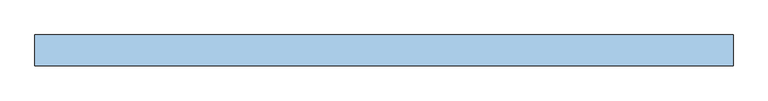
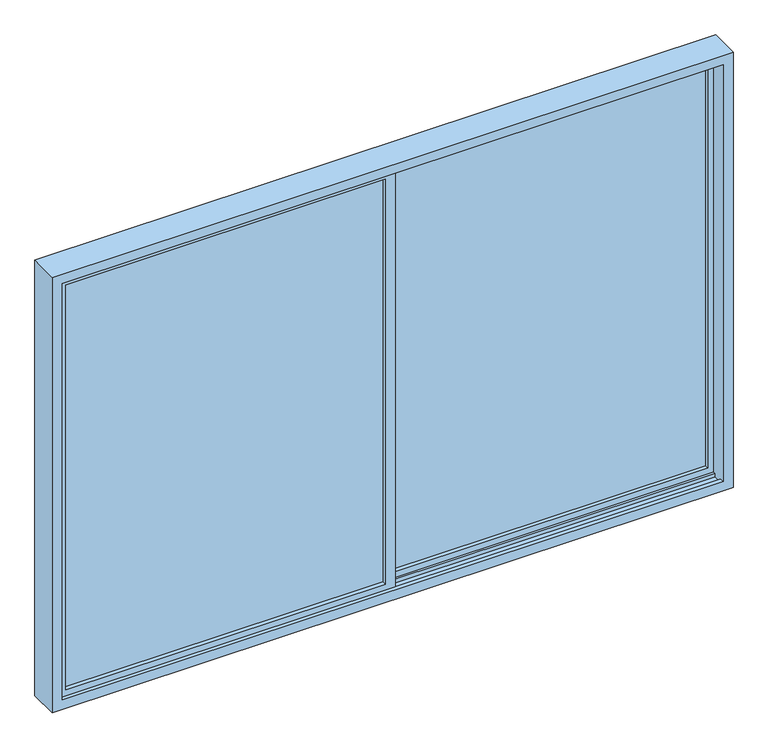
"""IFC4 building model written with IfcOpenShell, lengths in millimetres: window geometry, 두짝미서기창 : 두짝미서기창 2."""

from ifc_helpers import new_model, si_unit, frame, origin, place, context, project, spatial, polyline, outline, extrude, faceted_brep, source, transform, mapped, element, save


def window_95983576(model_context):
    return source(origin(), model_context, "Body", "SolidModel", [
        extrude(outline(polyline([(1620.0, 27.5), (25.0, 27.5), (25.0, 32.5), (1620.0, 32.5), (1620.0, 27.5)])), frame((0.0, 0.0, 680.0), z_axis=(0.0, 0.0, 1.0), x_axis=(1.0, 0.0, 0.0)), (0.0, 0.0, 1.0), 2140.0),
        extrude(outline(polyline([(-25.0, -32.5), (-1620.0, -32.5), (-1620.0, -27.5), (-25.0, -27.5), (-25.0, -32.5)])), frame((0.0, 0.0, 680.0), z_axis=(0.0, 0.0, 1.0), x_axis=(1.0, 0.0, 0.0)), (0.0, 0.0, 1.0), 2140.0),
        extrude(outline(polyline([(630.0, -1670.0), (630.0, 25.0), (2870.0, 25.0), (2870.0, -1670.0), (630.0, -1670.0)]), holes=[polyline([(2820.0, -1620.0), (2820.0, -25.0), (680.0, -25.0), (680.0, -1620.0), (2820.0, -1620.0)])]), frame((0.0, -55.0, 0.0), z_axis=(0.0, 1.0, 0.0), x_axis=(0.0, 0.0, 1.0)), (0.0, 0.0, 1.0), 47.5),
        extrude(outline(polyline([(630.0, -25.0), (630.0, 1670.0), (2870.0, 1670.0), (2870.0, -25.0), (630.0, -25.0)]), holes=[polyline([(2820.0, 25.0), (2820.0, 1620.0), (680.0, 1620.0), (680.0, 25.0), (2820.0, 25.0)])]), frame((0.0, 7.5, 0.0), z_axis=(0.0, 1.0, 0.0), x_axis=(0.0, 0.0, 1.0)), (0.0, 0.0, 1.0), 45.0),
        faceted_brep([(-1700.0, 75.0, 2900.0), (-1700.0, 75.0, 600.0), (-1700.0, -75.0, 600.0), (-1700.0, -75.0, 2900.0), (1700.0, 75.0, 2900.0), (1700.0, 75.0, 600.0), (1650.0, 75.0, 650.0), (1650.0, 75.0, 2850.0), (-1650.0, 75.0, 2850.0), (-1650.0, 75.0, 650.0), (1700.0, -75.0, 600.0), (1700.0, -75.0, 2900.0), (-1650.0, -75.0, 2850.0), (1650.0, -75.0, 2850.0), (1650.0, -75.0, 650.0), (-1650.0, -75.0, 650.0), (1650.0, 55.0, 650.0), (1650.0, 55.0, 2850.0), (-1650.0, 55.0, 2850.0), (-1650.0, 55.0, 2870.0), (-1650.0, 5.0, 2870.0), (-1650.0, 5.0, 2850.0), (-1650.0, -5.0, 2850.0), (-1650.0, -5.0, 650.0), (-1650.0, 5.0, 650.0), (-1650.0, 5.0, 630.0), (-1650.0, 55.0, 630.0), (-1650.0, 55.0, 650.0), (1650.0, -5.0, 650.0), (1650.0, 5.0, 650.0), (1650.0, -5.0, 630.0), (1650.0, -55.0, 630.0), (1650.0, -55.0, 650.0), (1650.0, -55.0, 2850.0), (1650.0, -55.0, 2870.0), (1650.0, -5.0, 2870.0), (1650.0, -5.0, 2850.0), (1650.0, 5.0, 2850.0), (1670.0, 5.0, 2870.0), (1670.0, 5.0, 630.0), (-1670.0, -5.0, 2870.0), (-1670.0, -5.0, 630.0), (1670.0, 55.0, 2870.0), (1670.0, 55.0, 630.0), (-1670.0, -55.0, 630.0), (-1650.0, -55.0, 2850.0), (-1650.0, -55.0, 650.0), (-1670.0, -55.0, 2870.0)], [[[0, 1, 2, 3]], [[4, 5, 1, 0], [6, 7, 8, 9]], [[1, 5, 10, 2]], [[10, 11, 3, 2], [12, 13, 14, 15]], [[7, 6, 16, 17]], [[9, 8, 18, 19, 20, 21, 22, 23, 24, 25, 26, 27]], [[16, 6, 9, 27]], [[5, 4, 11, 10]], [[28, 29, 24, 23]], [[28, 30, 31, 32, 14, 13, 33, 34, 35, 36, 37, 29]], [[29, 37, 21, 20, 38, 39, 25, 24]], [[40, 41, 30, 28, 23, 22, 36, 35]], [[39, 38, 42, 43]], [[39, 43, 26, 25]], [[43, 42, 19, 18, 17, 16, 27, 26]], [[41, 44, 31, 30]], [[45, 46, 32, 31, 44, 47, 34, 33]], [[46, 15, 14, 32]], [[12, 15, 46, 45]], [[47, 44, 41, 40]], [[3, 11, 4, 0]], [[7, 17, 18, 8]], [[37, 36, 22, 21]], [[42, 38, 20, 19]], [[12, 45, 33, 13]], [[47, 40, 35, 34]]]),
    ])


if __name__ == "__main__":
    model = new_model("IFC4")
    model_context = context("Model", 3, world=origin())
    ifc_project = project(units=[si_unit("LENGTHUNIT", "METRE", prefix="MILLI")], contexts=[model_context])
    site = spatial("IfcSite", under=ifc_project)
    building = spatial("IfcBuilding", under=site)
    placement = place(None, origin())
    window_shape = window_95983576(model_context)
    element("IfcWindow", 1, ObjectType="두짝미서기창 : 두짝미서기창 2", at=placement, inside=building, context=model_context, shape_type="MappedRepresentation", body=[
        mapped(window_shape, transform((0.0, 0.0, 0.0), x_axis=(1.0, 0.0, 0.0), y_axis=(0.0, 1.0, 0.0), z_axis=(0.0, 0.0, 1.0))),
    ])
    save(model, "model.ifc")
